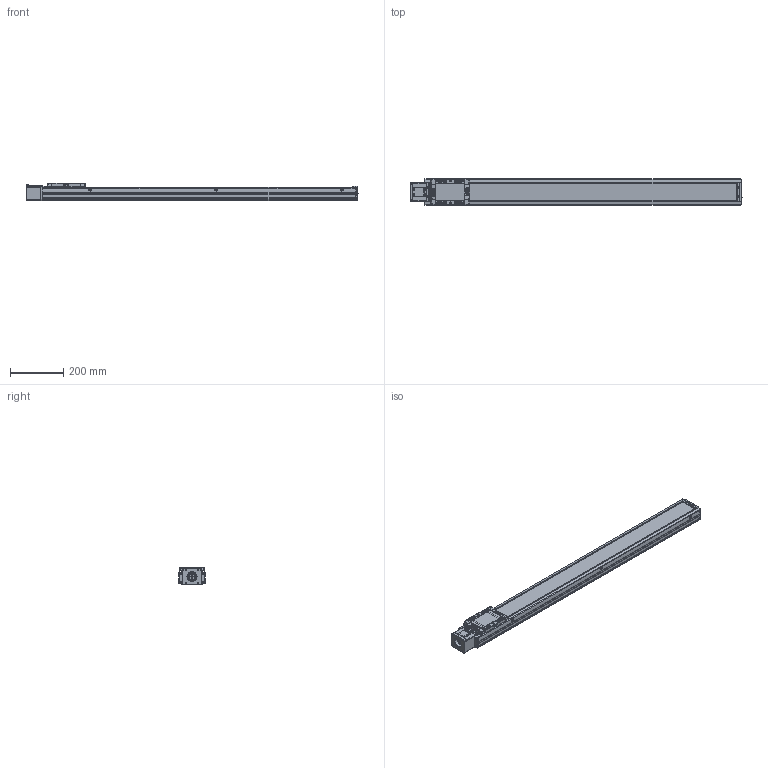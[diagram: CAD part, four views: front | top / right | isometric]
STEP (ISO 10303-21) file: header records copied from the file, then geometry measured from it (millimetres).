
FILE_DESCRIPTION(('STEP AP214'),'1');
FILE_NAME('Z:/Web/3D/SAN100/SAN100 양산용 (STEP)/SAN100ㅁㅁ-1000S.stp','2013-04-30T05:01:46',(' '),(' '),'Spatial InterOp 3D',' ',' ');
FILE_SCHEMA(('automotive_design'));
Length unit declared in the file: millimetre
Products named in the file (42): MTHZ-SAN100-S56A; SDA26C-8-6.35; SSFX-SAN65; CPLCV-SAN65; M3.0 x 6.0; 스크루 : Round - M4.0 x 10.0; FRCV-SAN100; SUS COVER; SFX-SAN100; RRCV-SAN100; 스크루 : Round - M3.0 x 6.0; FRBL-SAN100; SLBL-SAN100; SLCV-SAN100; 스크루 : Countersunk - M3.0 x 6.0; BASE; 스크루 : Round - M5.0 x 6.0
Bounding box: 1252.5 x 100 x 66 mm (x, y, z)
Volume: 3328404.4 mm3; surface area: 799097.5 mm2
Topology: 42 solids, 43 shells, 2570 faces, 6784 edges, 4375 vertices
Faces by surface type: plane 1175, cylinder 1029, cone 245, sphere 56, torus 45, bspline 20
Entity records: 103166 total; most frequent: CARTESIAN_POINT 16457, DIRECTION 14356, ORIENTED_EDGE 13348, EDGE_CURVE 6674, AXIS2_PLACEMENT_3D 5301, VERTEX_POINT 4375, LINE 3754, VECTOR 3754
